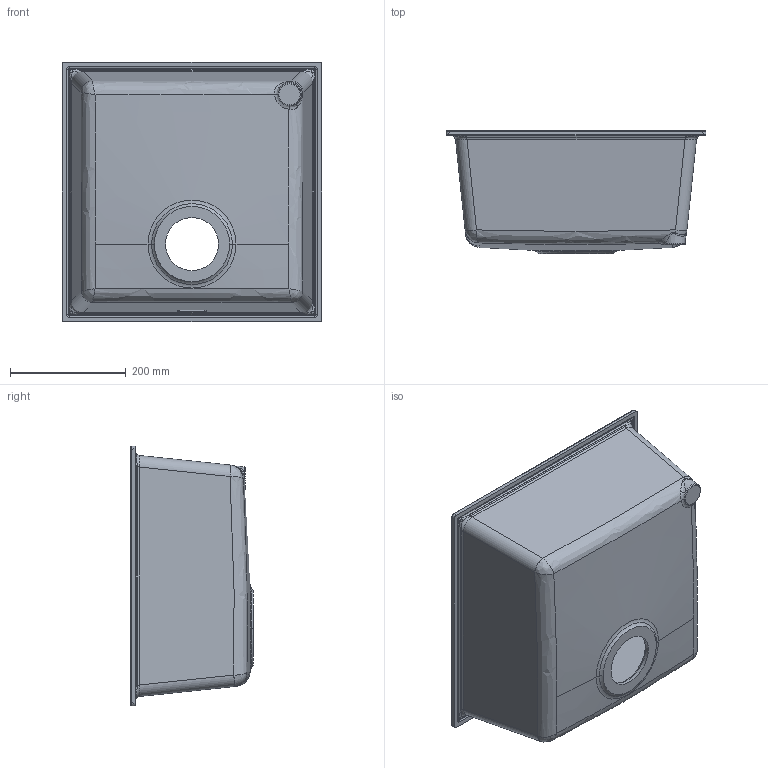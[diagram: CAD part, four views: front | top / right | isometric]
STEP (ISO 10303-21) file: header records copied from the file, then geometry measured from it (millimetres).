
FILE_DESCRIPTION((''),'2;1');
FILE_NAME('1150044','2024-12-09T13:19:43',('rafaelz'),('Audax d.o.o.'),'CREO PARAMETRIC BY PTC INC, 2020184','CREO PARAMETRIC BY PTC INC, 2020184','');
FILE_SCHEMA(('AP242_MANAGED_MODEL_BASED_3D_ENGINEERING_MIM_LF { 1 0 10303 442 1 1 4 }'));
Length unit declared in the file: millimetre
Products named in the file (1): 1150044
Bounding box: 450.12 x 212.92 x 450.12 mm (x, y, z)
Volume: 4451055.5 mm3; surface area: 912105.9 mm2
Topology: 1 solids, 1 shells, 164 faces, 404 edges, 240 vertices
Faces by surface type: bspline 70, cylinder 40, plane 25, torus 20, cone 9
Entity records: 11968 total; most frequent: CARTESIAN_POINT 7716, ORIENTED_EDGE 788, DIRECTION 551, EDGE_CURVE 394, COLOUR_RGB 321, VERTEX_POINT 234, AXIS2_PLACEMENT_3D 224, B_SPLINE_CURVE_WITH_KNOTS 190
